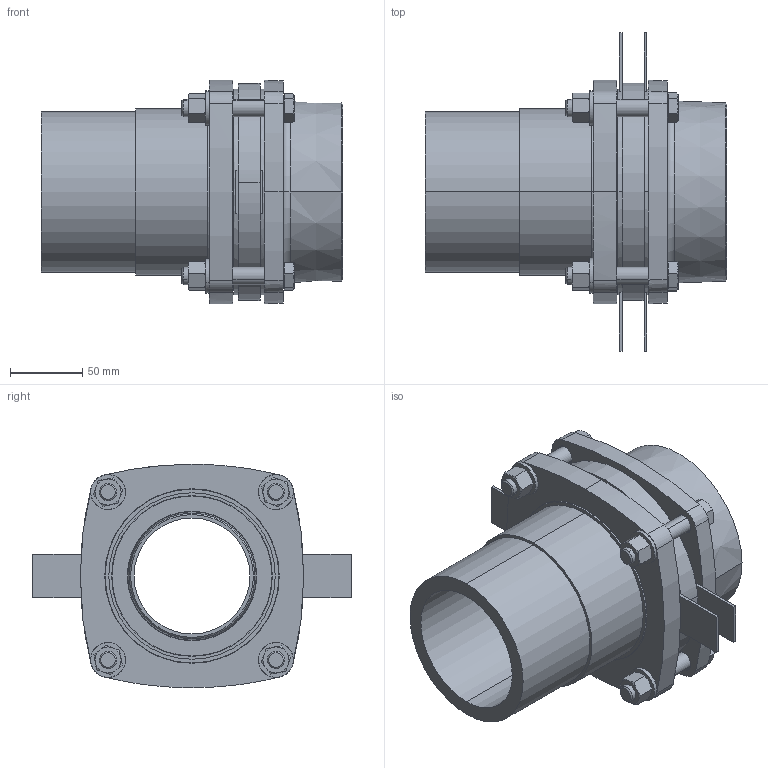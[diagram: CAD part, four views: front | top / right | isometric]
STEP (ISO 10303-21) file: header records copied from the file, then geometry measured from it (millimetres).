
FILE_DESCRIPTION (( 'STEP AP203' ), '1' );
FILE_NAME ('KP_C16-110F.step', '2011-08-08T12:00:07', ( '' ), ( '' ), 'SwSTEP 2.0', 'SolidWorks 2011', '' );
FILE_SCHEMA (( 'CONFIG_CONTROL_DESIGN' ));
Length unit declared in the file: millimetre
Products named in the file (1): KP_C16-110F
Bounding box: 208 x 220 x 154.31 mm (x, y, z)
Volume: 1303026.2 mm3; surface area: 301398.6 mm2
Topology: 1 solids, 1 shells, 410 faces, 907 edges, 538 vertices
Faces by surface type: plane 145, cone 142, cylinder 101, torus 22
Entity records: 11940 total; most frequent: CARTESIAN_POINT 2754, DIRECTION 2029, ORIENTED_EDGE 1814, EDGE_CURVE 907, AXIS2_PLACEMENT_3D 857, VERTEX_POINT 538, EDGE_LOOP 459, CIRCLE 446
